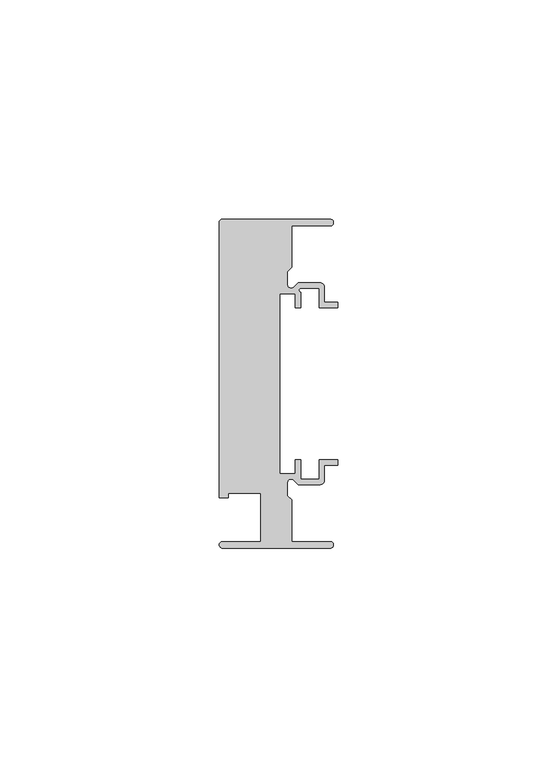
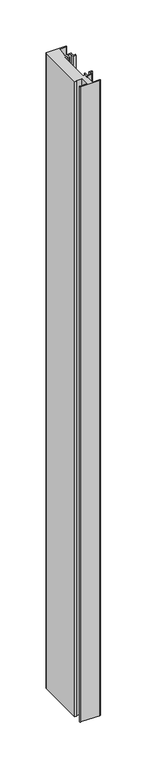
"""IFC4 building model written with IfcOpenShell, lengths in millimetres: member geometry, Прямоугольный импост : 5-AMG-1-Профиль 26Х75 Низ Л."""

from ifc_helpers import new_model, si_unit, point, frame, frame_2d, origin, place, context, project, spatial, polyline, circle_curve, trimmed, segment, composite_curve, outline, extrude, source, transform, mapped, element, save


def member_c922cb29(model_context):
    return source(origin(), model_context, "Body", "SweptSolid", [
        extrude(outline(composite_curve([segment(polyline([(-1.7, -37.5), (-26.25, -37.5)]), True, "CONTINUOUS"), segment(trimmed(circle_curve(frame_2d((-26.25, -36.75)), 0.75), [point((-26.25, -37.5))], [point((-26.25, -36.0))], False, "CARTESIAN"), True, "CONTINUOUS"), segment(polyline([(-26.25, -36.0), (-17.5, -36.0), (-17.5, -25.0), (-24.9359877, -25.0), (-24.9359877, -26.0), (-27.0, -26.0), (-27.0, 36.75)]), True, "CONTINUOUS"), segment(trimmed(circle_curve(frame_2d((-26.25, 36.75)), 0.75), [point((-27.0, 36.75))], [point((-26.25, 37.5))], False, "CARTESIAN"), True, "CONTINUOUS"), segment(polyline([(-26.25, 37.5), (-1.7, 37.5)]), True, "CONTINUOUS"), segment(trimmed(circle_curve(frame_2d((-1.7, 36.75)), 0.75), [point((-1.7, 37.5))], [point((-1.7, 36.0))], False, "CARTESIAN"), True, "CONTINUOUS"), segment(polyline([(-1.7, 36.0), (-10.5, 36.0), (-10.5, 26.5029437), (-11.5, 25.5029437), (-11.5, 22.6727922)]), True, "CONTINUOUS"), segment(trimmed(circle_curve(frame_2d((-10.6, 22.6727922)), 0.9), [point((-11.5, 22.6727922))], [point((-9.9636039, 22.0363961))], True, "CARTESIAN"), True, "CONTINUOUS"), segment(polyline([(-9.9636039, 22.0363961), (-9.0, 23.0), (-4.0, 23.0)]), True, "CONTINUOUS"), segment(trimmed(circle_curve(frame_2d((-4.0, 22.0)), 1.0), [point((-4.0, 23.0))], [point((-3.0, 22.0))], False, "CARTESIAN"), True, "CONTINUOUS"), segment(polyline([(-3.0, 22.0), (-3.0, 18.55), (0.0, 18.55), (0.0, 17.35), (-4.2, 17.35), (-4.2, 21.8), (-8.5029437, 21.8)]), True, "CONTINUOUS"), segment(trimmed(circle_curve(frame_2d((-8.3343131, 21.3314262)), 0.4979937), [point((-8.5029437, 21.8))], [point((-8.45, 20.8470563))], True, "CARTESIAN"), True, "CONTINUOUS"), segment(polyline([(-8.45, 20.8470563), (-8.45, 17.35), (-9.65, 17.35), (-9.65, 20.55), (-13.15, 20.55), (-13.15, -20.55), (-9.65, -20.55), (-9.65, -17.35), (-8.45, -17.35), (-8.45, -21.8), (-4.2, -21.8), (-4.2, -17.35), (0.0, -17.35), (0.0, -18.55), (-3.0, -18.55), (-3.0, -22.0)]), True, "CONTINUOUS"), segment(trimmed(circle_curve(frame_2d((-4.0, -22.0)), 1.0), [point((-3.0, -22.0))], [point((-4.0, -23.0))], False, "CARTESIAN"), True, "CONTINUOUS"), segment(polyline([(-4.0, -23.0), (-9.0, -23.0), (-9.9636039, -22.0363961)]), True, "CONTINUOUS"), segment(trimmed(circle_curve(frame_2d((-10.6, -22.6727922)), 0.9), [point((-9.9636039, -22.0363961))], [point((-11.5, -22.6727922))], True, "CARTESIAN"), True, "CONTINUOUS"), segment(polyline([(-11.5, -22.6727922), (-11.5, -25.5029437), (-10.5, -26.5029437), (-10.5, -36.0), (-1.7, -36.0)]), True, "CONTINUOUS"), segment(trimmed(circle_curve(frame_2d((-1.7, -36.75)), 0.75), [point((-1.7, -36.0))], [point((-1.7, -37.5))], False, "CARTESIAN"), True, "CONTINUOUS")], self_intersect=False)), frame((0.0, 0.0, -845.8978523), z_axis=(0.0, 0.0, 1.0), x_axis=(1.0, 0.0, 0.0)), (0.0, 0.0, 1.0), 845.8978523),
    ])


if __name__ == "__main__":
    model = new_model("IFC4")
    model_context = context("Model", 3, world=origin())
    ifc_project = project(units=[si_unit("LENGTHUNIT", "METRE", prefix="MILLI")], contexts=[model_context])
    site = spatial("IfcSite", under=ifc_project)
    building = spatial("IfcBuilding", under=site)
    placement = place(None, origin())
    member_shape = member_c922cb29(model_context)
    element("IfcMember", 1, ObjectType="Прямоугольный импост : 5-AMG-1-Профиль 26Х75 Низ Л", at=placement, inside=building, context=model_context, shape_type="MappedRepresentation", body=[
        mapped(member_shape, transform((0.0, 0.0, 0.0), x_axis=(1.0, 0.0, 0.0), y_axis=(0.0, 1.0, 0.0), z_axis=(0.0, 0.0, 1.0))),
    ])
    save(model, "model.ifc")
